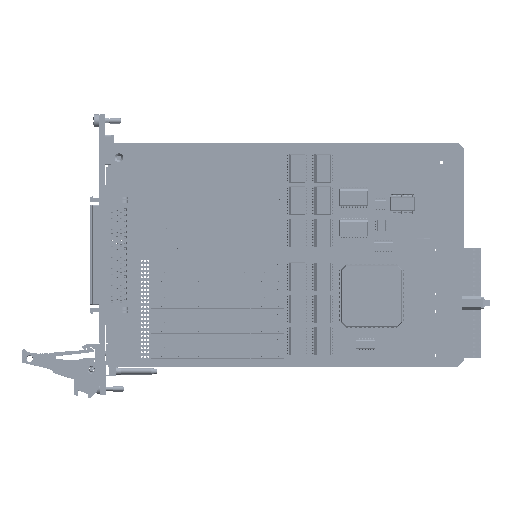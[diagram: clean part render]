
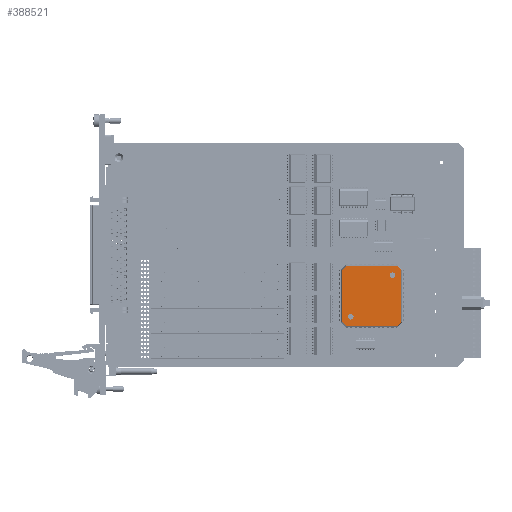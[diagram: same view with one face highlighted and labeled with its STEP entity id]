
A CAD part, top view. The second image highlights one B-rep face of the part: STEP entity #388521.
In plain terms, the highlighted planar face has unit normal (0, 0, 1) as drawn and (0, 1, 0) by its records, which use the part's own axes.
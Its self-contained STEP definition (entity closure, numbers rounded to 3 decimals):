
#61 = DIRECTION ( 'NONE',  ( 0., -1., 0. ) ) ;
#2658 = EDGE_LOOP ( 'NONE', ( #225459, #220783 ) ) ;
#5339 = LINE ( 'NONE', #85533, #418634 ) ;
#10642 = VERTEX_POINT ( 'NONE', #489761 ) ;
#17116 = ORIENTED_EDGE ( 'NONE', *, *, #434147, .T. ) ;
#21100 = CIRCLE ( 'NONE', #243847, 1.249 ) ;
#25348 = CARTESIAN_POINT ( 'NONE',  ( -13.544, 1.7, 11.811 ) ) ;
#28390 = LINE ( 'NONE', #152673, #228342 ) ;
#35591 = CARTESIAN_POINT ( 'NONE',  ( 11.678, 1.7, -13.678 ) ) ;
#37885 = ORIENTED_EDGE ( 'NONE', *, *, #458025, .F. ) ;
#46691 = PLANE ( 'NONE',  #465499 ) ;
#58927 = LINE ( 'NONE', #173678, #365770 ) ;
#64686 = LINE ( 'NONE', #95459, #277517 ) ;
#67700 = AXIS2_PLACEMENT_3D ( 'NONE', #239459, #61, #279935 ) ;
#74144 = FACE_BOUND ( 'NONE', #2658, .T. ) ;
#78073 = ORIENTED_EDGE ( 'NONE', *, *, #333653, .F. ) ;
#85533 = CARTESIAN_POINT ( 'NONE',  ( -13.544, 1.7, 12. ) ) ;
#85772 = DIRECTION ( 'NONE',  ( 0., -1., 0. ) ) ;
#95459 = CARTESIAN_POINT ( 'NONE',  ( 11.678, 1.7, 13.678 ) ) ;
#95483 = CARTESIAN_POINT ( 'NONE',  ( -9.544, 1.7, 8.296 ) ) ;
#99215 = ORIENTED_EDGE ( 'NONE', *, *, #505361, .F. ) ;
#103798 = VERTEX_POINT ( 'NONE', #367419 ) ;
#105553 = CARTESIAN_POINT ( 'NONE',  ( 9.544, 1.7, -8.294 ) ) ;
#114132 = LINE ( 'NONE', #351439, #445934 ) ;
#122471 = VERTEX_POINT ( 'NONE', #491568 ) ;
#122833 = VECTOR ( 'NONE', #495781, 1000. ) ;
#124591 = VERTEX_POINT ( 'NONE', #204270 ) ;
#132766 = AXIS2_PLACEMENT_3D ( 'NONE', #325601, #85772, #365923 ) ;
#133522 = VERTEX_POINT ( 'NONE', #395223 ) ;
#145498 = EDGE_CURVE ( 'NONE', #211485, #122471, #21100, .T. ) ;
#150547 = CARTESIAN_POINT ( 'NONE',  ( 11.811, 1.7, 13.544 ) ) ;
#152673 = CARTESIAN_POINT ( 'NONE',  ( -12., 1.7, 13.544 ) ) ;
#153654 = ORIENTED_EDGE ( 'NONE', *, *, #435585, .F. ) ;
#173678 = CARTESIAN_POINT ( 'NONE',  ( -11.678, 1.7, 13.678 ) ) ;
#176153 = CARTESIAN_POINT ( 'NONE',  ( 13.544, 1.7, 12. ) ) ;
#184379 = CARTESIAN_POINT ( 'NONE',  ( 9.544, 1.7, -9.544 ) ) ;
#187623 = CIRCLE ( 'NONE', #132766, 1.249 ) ;
#201871 = VERTEX_POINT ( 'NONE', #150547 ) ;
#204270 = CARTESIAN_POINT ( 'NONE',  ( 13.544, 1.7, -11.811 ) ) ;
#208639 = DIRECTION ( 'NONE',  ( 1., 0., 0. ) ) ;
#209084 = CARTESIAN_POINT ( 'NONE',  ( 26., 1.7, 0. ) ) ;
#211485 = VERTEX_POINT ( 'NONE', #95483 ) ;
#213566 = EDGE_CURVE ( 'NONE', #274658, #408930, #58927, .T. ) ;
#216286 = EDGE_CURVE ( 'NONE', #124591, #133522, #229052, .T. ) ;
#218617 = EDGE_CURVE ( 'NONE', #365167, #103798, #385573, .T. ) ;
#220783 = ORIENTED_EDGE ( 'NONE', *, *, #246074, .T. ) ;
#224030 = ORIENTED_EDGE ( 'NONE', *, *, #145498, .T. ) ;
#224464 = DIRECTION ( 'NONE',  ( 0., 0., 1. ) ) ;
#225459 = ORIENTED_EDGE ( 'NONE', *, *, #218617, .T. ) ;
#227670 = CARTESIAN_POINT ( 'NONE',  ( -13.544, 1.7, -11.811 ) ) ;
#228342 = VECTOR ( 'NONE', #394229, 1000. ) ;
#229052 = LINE ( 'NONE', #176153, #122833 ) ;
#236479 = DIRECTION ( 'NONE',  ( 0.707, 0., 0.707 ) ) ;
#239459 = CARTESIAN_POINT ( 'NONE',  ( 9.544, 1.7, -9.544 ) ) ;
#243847 = AXIS2_PLACEMENT_3D ( 'NONE', #518572, #517970, #516817 ) ;
#246074 = EDGE_CURVE ( 'NONE', #103798, #365167, #302997, .T. ) ;
#249428 = DIRECTION ( 'NONE',  ( 0., 0., 1. ) ) ;
#269266 = VERTEX_POINT ( 'NONE', #227670 ) ;
#274658 = VERTEX_POINT ( 'NONE', #276233 ) ;
#276233 = CARTESIAN_POINT ( 'NONE',  ( -11.811, 1.7, 13.544 ) ) ;
#277517 = VECTOR ( 'NONE', #375618, 1000. ) ;
#279935 = DIRECTION ( 'NONE',  ( 0., 0., 1. ) ) ;
#286990 = FACE_BOUND ( 'NONE', #449802, .T. ) ;
#288226 = ORIENTED_EDGE ( 'NONE', *, *, #353701, .F. ) ;
#302997 = CIRCLE ( 'NONE', #67700, 1.25 ) ;
#325353 = DIRECTION ( 'NONE',  ( 0., 0., -1. ) ) ;
#325601 = CARTESIAN_POINT ( 'NONE',  ( -9.544, 1.7, 9.544 ) ) ;
#333653 = EDGE_CURVE ( 'NONE', #133522, #201871, #64686, .T. ) ;
#337473 = VECTOR ( 'NONE', #236479, 1000. ) ;
#351439 = CARTESIAN_POINT ( 'NONE',  ( -11.678, 1.7, -13.678 ) ) ;
#353701 = EDGE_CURVE ( 'NONE', #408930, #269266, #5339, .T. ) ;
#365167 = VERTEX_POINT ( 'NONE', #105553 ) ;
#365770 = VECTOR ( 'NONE', #453557, 1000. ) ;
#365923 = DIRECTION ( 'NONE',  ( 0., 0., 1. ) ) ;
#367419 = CARTESIAN_POINT ( 'NONE',  ( 9.544, 1.7, -10.794 ) ) ;
#375618 = DIRECTION ( 'NONE',  ( -0.707, 0., 0.707 ) ) ;
#385573 = CIRCLE ( 'NONE', #437628, 1.25 ) ;
#388521 = ADVANCED_FACE ( 'NONE', ( #74144, #393634, #286990 ), #46691, .T. ) ;
#391723 = DIRECTION ( 'NONE',  ( 0.707, 0., -0.707 ) ) ;
#393634 = FACE_OUTER_BOUND ( 'NONE', #438074, .T. ) ;
#394229 = DIRECTION ( 'NONE',  ( -1., 0., 0. ) ) ;
#395223 = CARTESIAN_POINT ( 'NONE',  ( 13.544, 1.7, 11.811 ) ) ;
#408930 = VERTEX_POINT ( 'NONE', #25348 ) ;
#418634 = VECTOR ( 'NONE', #325353, 1000. ) ;
#424683 = ORIENTED_EDGE ( 'NONE', *, *, #485601, .F. ) ;
#434147 = EDGE_CURVE ( 'NONE', #122471, #211485, #187623, .T. ) ;
#434968 = CARTESIAN_POINT ( 'NONE',  ( 11.811, 1.7, -13.544 ) ) ;
#435585 = EDGE_CURVE ( 'NONE', #502732, #124591, #443738, .T. ) ;
#437628 = AXIS2_PLACEMENT_3D ( 'NONE', #184379, #464191, #224464 ) ;
#438074 = EDGE_LOOP ( 'NONE', ( #78073, #466647, #153654, #37885, #424683, #288226, #445214, #99215 ) ) ;
#443738 = LINE ( 'NONE', #35591, #337473 ) ;
#445214 = ORIENTED_EDGE ( 'NONE', *, *, #213566, .F. ) ;
#445934 = VECTOR ( 'NONE', #391723, 1000. ) ;
#449802 = EDGE_LOOP ( 'NONE', ( #17116, #224030 ) ) ;
#453557 = DIRECTION ( 'NONE',  ( -0.707, 0., -0.707 ) ) ;
#458025 = EDGE_CURVE ( 'NONE', #10642, #502732, #498323, .T. ) ;
#464191 = DIRECTION ( 'NONE',  ( 0., -1., 0. ) ) ;
#465499 = AXIS2_PLACEMENT_3D ( 'NONE', #209084, #488769, #249428 ) ;
#466647 = ORIENTED_EDGE ( 'NONE', *, *, #216286, .F. ) ;
#473562 = VECTOR ( 'NONE', #208639, 1000. ) ;
#485601 = EDGE_CURVE ( 'NONE', #269266, #10642, #114132, .T. ) ;
#488331 = CARTESIAN_POINT ( 'NONE',  ( -12., 1.7, -13.544 ) ) ;
#488769 = DIRECTION ( 'NONE',  ( 0., 1., 0. ) ) ;
#489761 = CARTESIAN_POINT ( 'NONE',  ( -11.811, 1.7, -13.544 ) ) ;
#491568 = CARTESIAN_POINT ( 'NONE',  ( -9.544, 1.7, 10.793 ) ) ;
#495781 = DIRECTION ( 'NONE',  ( 0., 0., 1. ) ) ;
#498323 = LINE ( 'NONE', #488331, #473562 ) ;
#502732 = VERTEX_POINT ( 'NONE', #434968 ) ;
#505361 = EDGE_CURVE ( 'NONE', #201871, #274658, #28390, .T. ) ;
#516817 = DIRECTION ( 'NONE',  ( 0., 0., 1. ) ) ;
#517970 = DIRECTION ( 'NONE',  ( 0., -1., 0. ) ) ;
#518572 = CARTESIAN_POINT ( 'NONE',  ( -9.544, 1.7, 9.544 ) ) ;
